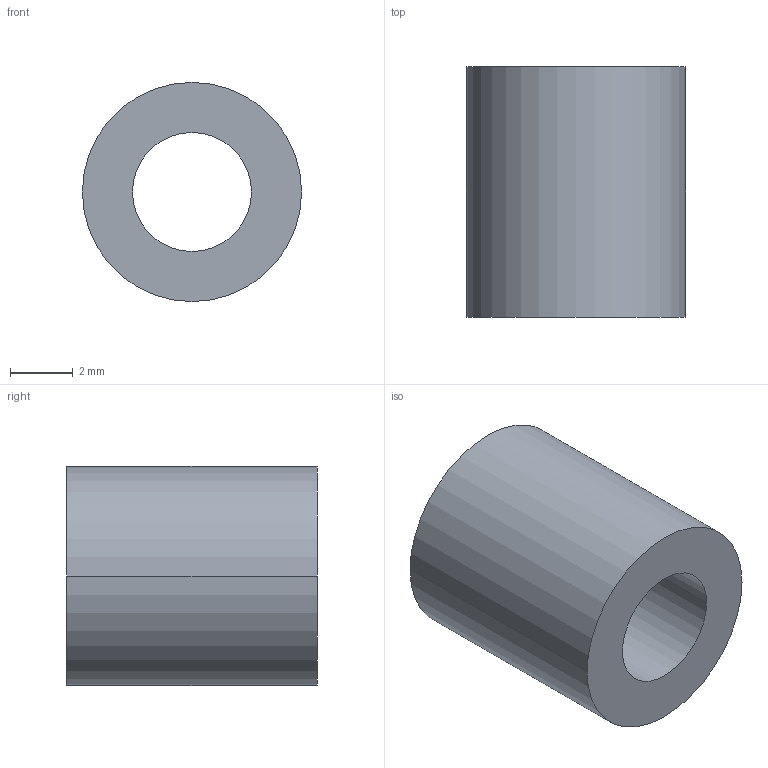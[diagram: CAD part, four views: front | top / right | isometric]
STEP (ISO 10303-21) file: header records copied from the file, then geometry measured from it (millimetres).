
FILE_DESCRIPTION (( 'STEP AP203' ), '1' );
FILE_NAME ('30800.WPP7B3.8.step', '2019-01-23T22:19:44', ( '' ), ( '' ), 'SwSTEP 2.0', 'SolidWorks 2017', '' );
FILE_SCHEMA (( 'CONFIG_CONTROL_DESIGN' ));
Length unit declared in the file: millimetre
Products named in the file (1): 30800.WPP7B3.8
Bounding box: 7 x 8 x 7 mm (x, y, z)
Volume: 214.3 mm3; surface area: 321 mm2
Topology: 1 solids, 1 shells, 8 faces, 16 edges, 10 vertices
Faces by surface type: cylinder 4, torus 2, plane 2
Entity records: 297 total; most frequent: DIRECTION 46, CARTESIAN_POINT 35, ORIENTED_EDGE 32, AXIS2_PLACEMENT_3D 21, EDGE_CURVE 16, CIRCLE 12, EDGE_LOOP 10, VERTEX_POINT 10
